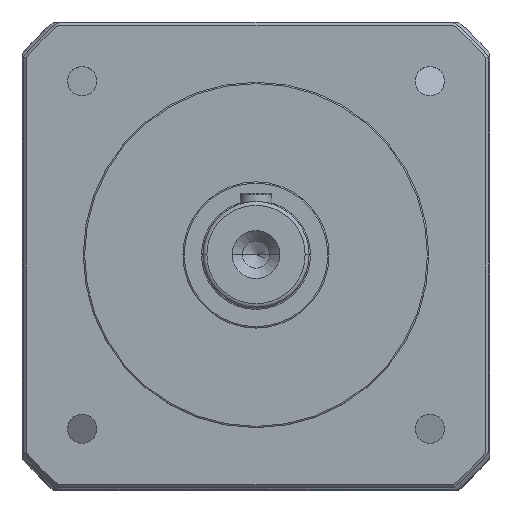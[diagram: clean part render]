
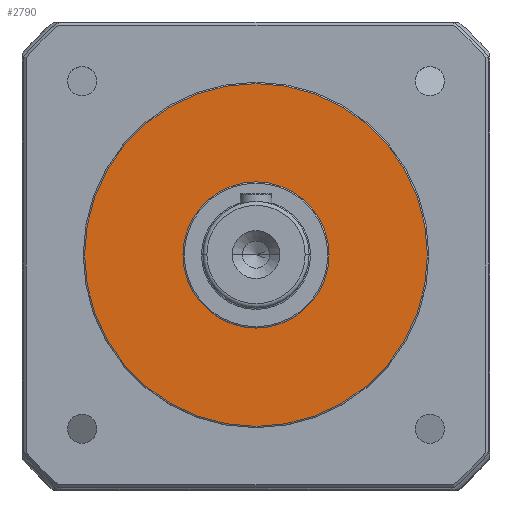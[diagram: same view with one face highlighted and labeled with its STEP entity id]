
A CAD part, top view. The second image highlights one B-rep face of the part: STEP entity #2790.
In plain terms, the highlighted planar face has unit normal (0, 0, 1).
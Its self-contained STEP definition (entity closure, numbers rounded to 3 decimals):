
#90 = VERTEX_POINT ( 'NONE', #1534 ) ;
#475 = DIRECTION ( 'NONE',  ( 1., 0., 0. ) ) ;
#852 = DIRECTION ( 'NONE',  ( 0., 0., 1. ) ) ;
#980 = ORIENTED_EDGE ( 'NONE', *, *, #6230, .T. ) ;
#1085 = ORIENTED_EDGE ( 'NONE', *, *, #2278, .F. ) ;
#1355 = CARTESIAN_POINT ( 'NONE',  ( -27.5, 0., 5. ) ) ;
#1503 = ORIENTED_EDGE ( 'NONE', *, *, #3452, .T. ) ;
#1534 = CARTESIAN_POINT ( 'NONE',  ( 27.5, 0., 5. ) ) ;
#1540 = AXIS2_PLACEMENT_3D ( 'NONE', #5456, #2508, #5945 ) ;
#1570 = CARTESIAN_POINT ( 'NONE',  ( -64.5, 0., 5. ) ) ;
#1607 = AXIS2_PLACEMENT_3D ( 'NONE', #2590, #6017, #3072 ) ;
#1657 = VERTEX_POINT ( 'NONE', #1570 ) ;
#2138 = ORIENTED_EDGE ( 'NONE', *, *, #5041, .F. ) ;
#2243 = CIRCLE ( 'NONE', #4399, 27.5 ) ;
#2278 = EDGE_CURVE ( 'NONE', #90, #3677, #2243, .T. ) ;
#2313 = CIRCLE ( 'NONE', #1607, 64.5 ) ;
#2462 = CARTESIAN_POINT ( 'NONE',  ( 0., 0., 5. ) ) ;
#2508 = DIRECTION ( 'NONE',  ( 0., 0., 1. ) ) ;
#2590 = CARTESIAN_POINT ( 'NONE',  ( 0., 0., 5. ) ) ;
#2634 = CARTESIAN_POINT ( 'NONE',  ( 0., 0., 5. ) ) ;
#2651 = AXIS2_PLACEMENT_3D ( 'NONE', #2462, #3443, #475 ) ;
#2790 = ADVANCED_FACE ( 'NONE', ( #4394, #5555 ), #4404, .T. ) ;
#3072 = DIRECTION ( 'NONE',  ( 1., 0., 0. ) ) ;
#3122 = DIRECTION ( 'NONE',  ( 1., 0., 0. ) ) ;
#3443 = DIRECTION ( 'NONE',  ( 0., 0., 1. ) ) ;
#3452 = EDGE_CURVE ( 'NONE', #5461, #1657, #2313, .T. ) ;
#3526 = CARTESIAN_POINT ( 'NONE',  ( 64.5, 0., 5. ) ) ;
#3677 = VERTEX_POINT ( 'NONE', #1355 ) ;
#3809 = CARTESIAN_POINT ( 'NONE',  ( 0., 0., 5. ) ) ;
#4298 = DIRECTION ( 'NONE',  ( 1., 0., 0. ) ) ;
#4394 = FACE_BOUND ( 'NONE', #5260, .T. ) ;
#4399 = AXIS2_PLACEMENT_3D ( 'NONE', #3809, #852, #4298 ) ;
#4404 = PLANE ( 'NONE',  #2651 ) ;
#4832 = AXIS2_PLACEMENT_3D ( 'NONE', #2634, #6070, #3122 ) ;
#5041 = EDGE_CURVE ( 'NONE', #3677, #90, #5691, .T. ) ;
#5068 = EDGE_LOOP ( 'NONE', ( #1503, #980 ) ) ;
#5260 = EDGE_LOOP ( 'NONE', ( #1085, #2138 ) ) ;
#5456 = CARTESIAN_POINT ( 'NONE',  ( 0., 0., 5. ) ) ;
#5461 = VERTEX_POINT ( 'NONE', #3526 ) ;
#5555 = FACE_OUTER_BOUND ( 'NONE', #5068, .T. ) ;
#5606 = CIRCLE ( 'NONE', #1540, 64.5 ) ;
#5691 = CIRCLE ( 'NONE', #4832, 27.5 ) ;
#5945 = DIRECTION ( 'NONE',  ( 1., 0., 0. ) ) ;
#6017 = DIRECTION ( 'NONE',  ( 0., 0., 1. ) ) ;
#6070 = DIRECTION ( 'NONE',  ( 0., 0., 1. ) ) ;
#6230 = EDGE_CURVE ( 'NONE', #1657, #5461, #5606, .T. ) ;
